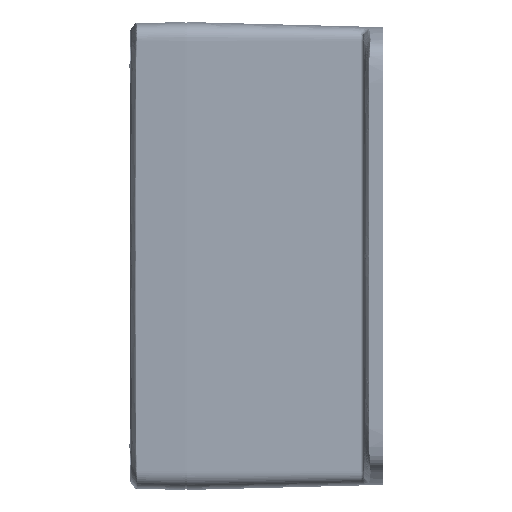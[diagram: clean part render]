
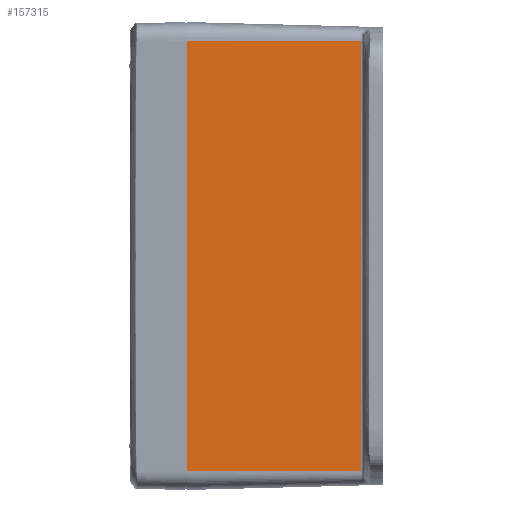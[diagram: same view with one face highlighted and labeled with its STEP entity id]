
A CAD part, left-side view. The second image highlights one B-rep face of the part: STEP entity #157315.
In plain terms, the highlighted planar face has unit normal (-1, -0.026, 0).
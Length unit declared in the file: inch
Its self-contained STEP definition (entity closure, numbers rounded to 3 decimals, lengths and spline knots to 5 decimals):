
#4953 = CARTESIAN_POINT ( 'NONE',  ( -4.49935, 0.30357, -2.98495 ) ) ;
#22038 = DIRECTION ( 'NONE',  ( 0.026, -1., 0. ) ) ;
#36691 = VERTEX_POINT ( 'NONE', #89846 ) ;
#37332 = CARTESIAN_POINT ( 'NONE',  ( -4.5625, 2.715, 2.98495 ) ) ;
#38286 = DIRECTION ( 'NONE',  ( 0.026, -1., 0. ) ) ;
#47480 = CARTESIAN_POINT ( 'NONE',  ( -4.49935, 0.30357, -2.98495 ) ) ;
#61821 = DIRECTION ( 'NONE',  ( 0., 0., 1. ) ) ;
#69444 = FACE_OUTER_BOUND ( 'NONE', #81692, .T. ) ;
#71482 = CARTESIAN_POINT ( 'NONE',  ( -4.5625, 2.715, -2.98495 ) ) ;
#77413 = LINE ( 'NONE', #47480, #100535 ) ;
#79090 = ORIENTED_EDGE ( 'NONE', *, *, #138313, .F. ) ;
#81692 = EDGE_LOOP ( 'NONE', ( #166362, #139804, #79090, #187572 ) ) ;
#89846 = CARTESIAN_POINT ( 'NONE',  ( -4.5625, 2.715, -2.98495 ) ) ;
#92154 = VERTEX_POINT ( 'NONE', #37332 ) ;
#100535 = VECTOR ( 'NONE', #188734, 39.37008 ) ;
#105870 = VECTOR ( 'NONE', #61821, 39.37008 ) ;
#112641 = VECTOR ( 'NONE', #174970, 39.37008 ) ;
#113054 = LINE ( 'NONE', #128545, #112641 ) ;
#125284 = VECTOR ( 'NONE', #38286, 39.37008 ) ;
#128545 = CARTESIAN_POINT ( 'NONE',  ( -4.5625, 2.715, -2.98495 ) ) ;
#132130 = LINE ( 'NONE', #178560, #125284 ) ;
#132308 = VERTEX_POINT ( 'NONE', #4953 ) ;
#132535 = VERTEX_POINT ( 'NONE', #177936 ) ;
#138313 = EDGE_CURVE ( 'NONE', #92154, #132535, #132130, .T. ) ;
#139512 = EDGE_CURVE ( 'NONE', #36691, #92154, #186592, .T. ) ;
#139804 = ORIENTED_EDGE ( 'NONE', *, *, #200189, .T. ) ;
#150094 = AXIS2_PLACEMENT_3D ( 'NONE', #71482, #163302, #22038 ) ;
#151879 = PLANE ( 'NONE',  #150094 ) ;
#156700 = CARTESIAN_POINT ( 'NONE',  ( -4.5625, 2.715, -2.98495 ) ) ;
#157315 = ADVANCED_FACE ( 'Face2', ( #69444 ), #151879, .T. ) ;
#163302 = DIRECTION ( 'NONE',  ( -1., -0.026, 0. ) ) ;
#166362 = ORIENTED_EDGE ( 'NONE', *, *, #194032, .T. ) ;
#174970 = DIRECTION ( 'NONE',  ( 0.026, -1., 0. ) ) ;
#177936 = CARTESIAN_POINT ( 'NONE',  ( -4.49935, 0.30357, 2.98495 ) ) ;
#178560 = CARTESIAN_POINT ( 'NONE',  ( -4.5625, 2.715, 2.98495 ) ) ;
#186592 = LINE ( 'NONE', #156700, #105870 ) ;
#187572 = ORIENTED_EDGE ( 'NONE', *, *, #139512, .F. ) ;
#188734 = DIRECTION ( 'NONE',  ( 0., 0., 1. ) ) ;
#194032 = EDGE_CURVE ( 'NONE', #36691, #132308, #113054, .T. ) ;
#200189 = EDGE_CURVE ( 'NONE', #132308, #132535, #77413, .T. ) ;
